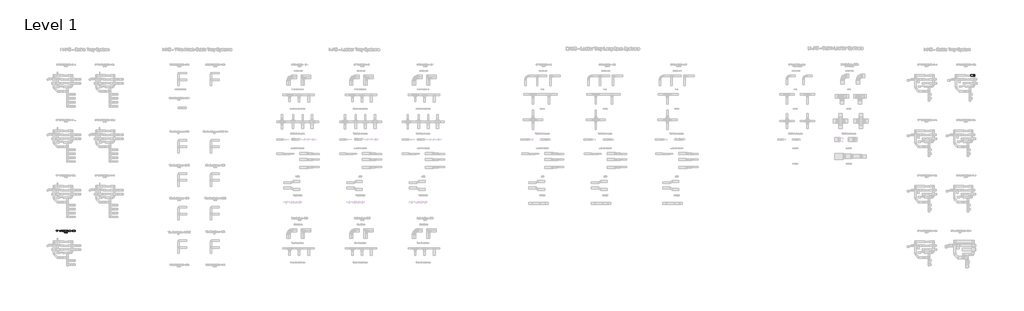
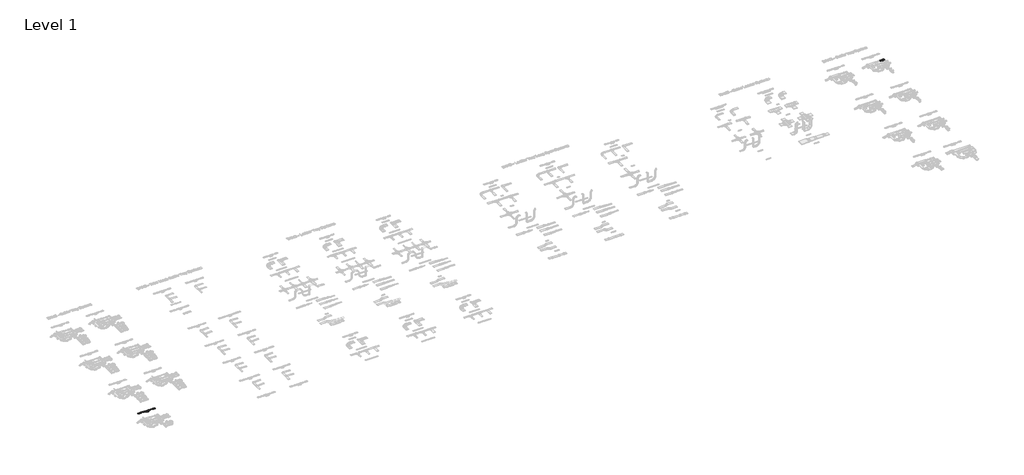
# One storey, part 26 of 106: 2 cable carrier fittings, 1 cable carrier segment, 1 proxy.
"""IFC4 building model written with IfcOpenShell, lengths in millimetres."""

from ifc_helpers import new_model, si_unit, frame, origin, origin_with_axes, place, context, project, spatial, polyline, outline, extrude, transform, mapped, element, save
from components import cable_carrier_fitting_ab346bf8, cable_carrier_fitting_42195290

model = new_model("IFC4")

# Units and contexts
model_context = context("Model", 3, world=origin())
ifc_project = project(units=[si_unit("LENGTHUNIT", "METRE", prefix="MILLI")], contexts=[model_context])

# Site, building, storey
site = spatial("IfcSite", under=ifc_project)
building = spatial("IfcBuilding", under=site)
storey = spatial("IfcBuildingStorey", under=building, Name="Level 1", Elevation=0.0)

# Proxy
placement = place(None, origin())
element("IfcBuildingElementProxy", 1, Name="250mm Arial 3", ObjectType="250mm Arial 3", at=placement, inside=storey, context=model_context, shape_type="SweptSolid", body=[
    extrude(outline(polyline([(-19340.3713614, 37392.4106539), (-19308.9787644, 37384.31725), (-19323.464118, 37347.7359841), (-19346.1961596, 37321.01089), (-19376.0559149, 37304.6631338), (-19411.9244094, 37299.2138818), (-19448.3370627, 37303.3372258), (-19477.2541204, 37315.7072579), (-19499.4190106, 37335.8947824), (-19515.5751616, 37363.4706036), (-19525.4389976, 37395.8902044), (-19528.7269429, 37430.6090677), (-19525.0098019, 37467.2286547), (-19513.8583789, 37498.8511778), (-19495.8551538, 37524.472626), (-19471.5826063, 37543.0889878), (-19442.7958402, 37554.4243517), (-19411.2499591, 37558.2028064), (-19376.8299999, 37553.3130415), (-19348.3727947, 37538.643747), (-19326.7673917, 37515.0992993), (-19312.902839, 37483.584075), (-19344.295436, 37476.1038078), (-19355.1786117, 37498.9967978), (-19370.0471756, 37514.7007605), (-19389.0850689, 37523.7828472), (-19412.4762324, 37526.8102095), (-19439.438917, 37523.4532863), (-19461.5884788, 37513.3825166), (-19478.3960874, 37497.6555613), (-19489.3329126, 37477.3300811), (-19495.3339876, 37454.3527848), (-19497.334346, 37430.6703814), (-19494.9661056, 37401.6690174), (-19487.8613846, 37376.5917281), (-19475.7519356, 37356.3965394), (-19458.3695113, 37342.0414774), (-19437.5305291, 37333.4652284), (-19415.0514064, 37330.6064787), (-19388.8474784, 37334.4998965), (-19367.0121492, 37346.1801498), (-19350.5264373, 37365.5246114), (-19340.3713614, 37392.4106539)])), origin_with_axes(), (0.0, 0.0, 1.0), 15.0),
    extrude(outline(polyline([(-19152.0157798, 37326.6824041), (-19167.0146353, 37313.8218627), (-19182.4580149, 37305.406562), (-19198.6984722, 37300.7620518), (-19216.0885606, 37299.2138818), (-19242.3231454, 37302.938687), (-19261.6752712, 37314.1131026), (-19273.6084434, 37331.0816596), (-19277.5861675, 37352.1888891), (-19276.0839827, 37365.2027147), (-19271.5774283, 37377.0209238), (-19255.7891593, 37395.0471415), (-19233.8082101, 37405.3478374), (-19206.6462561, 37410.0689897), (-19152.1997208, 37420.8601949), (-19152.0157798, 37427.8499528), (-19154.1770865, 37441.8601254), (-19160.6610067, 37451.0265185), (-19175.1616887, 37457.8323354), (-19195.3645416, 37460.100941), (-19214.0652097, 37458.591092), (-19227.1250205, 37454.0615449), (-19236.0308305, 37445.6845653), (-19242.269496, 37432.6324187), (-19273.6620929, 37436.5564933), (-19268.2128408, 37453.7243198), (-19260.0811159, 37467.2133262), (-19248.5081615, 37477.5293505), (-19232.7352209, 37485.1782303), (-19213.4444088, 37489.914711), (-19191.3178396, 37491.4935379), (-19170.095647, 37490.098652), (-19153.27271, 37485.9139943), (-19140.5884453, 37479.6216794), (-19131.7822701, 37471.9038217), (-19122.1560245, 37450.5973228), (-19120.6231829, 37423.1288005), (-19120.6231829, 37384.0719953), (-19119.0290276, 37329.5334895), (-19112.7750337, 37303.1379564), (-19144.1676306, 37303.1379564), (-19152.0157798, 37326.6824041)]), holes=[polyline([(-19152.0157798, 37389.4675979), (-19202.6608678, 37379.8413524), (-19229.6695376, 37374.7523181), (-19241.901614, 37366.4749732), (-19246.1935706, 37354.3961811), (-19243.8559871, 37345.0611754), (-19236.8432365, 37337.4122956), (-19225.3086032, 37332.3079329), (-19209.4053711, 37330.6064787), (-19192.544113, 37332.4842097), (-19177.6448922, 37338.1174028), (-19165.5661, 37346.4177403), (-19157.1661278, 37356.2969047), (-19153.4413226, 37366.4749732), (-19152.1997208, 37380.5771164), (-19152.0157798, 37389.4675979)])]), origin_with_axes(), (0.0, 0.0, 1.0), 15.0),
    extrude(outline(polyline([(-19046.0657652, 37303.1379564), (-19077.4583621, 37303.1379564), (-19077.4583621, 37554.2787318), (-19046.0657652, 37554.2787318), (-19046.0657652, 37461.1432733), (-19035.7420767, 37474.4215141), (-19024.084816, 37483.9059718), (-19011.093983, 37489.5966464), (-18996.7695779, 37491.4935379), (-18980.5980985, 37489.7844195), (-18965.3156673, 37484.6570642), (-18951.7960039, 37476.4333687), (-18940.9128283, 37465.4352299), (-18925.921637, 37435.5448178), (-18920.4953775, 37398.1128248), (-18926.1132422, 37356.2049342), (-18933.135573, 37339.2746982), (-18942.9668361, 37325.0269351), (-18954.7678007, 37313.7337243), (-18967.699236, 37305.6671451), (-18981.7611421, 37300.8271976), (-18996.9535189, 37299.2138818), (-19011.7492728, 37301.2947143), (-19024.8665652, 37307.5372119), (-19036.305396, 37317.9413746), (-19046.0657652, 37332.5072023), (-19046.0657652, 37303.1379564)]), holes=[polyline([(-19046.0657652, 37396.6412968), (-19043.9197869, 37370.4603615), (-19037.481852, 37352.7407121), (-19021.0344611, 37336.140037), (-18999.6513202, 37330.6064787), (-18981.5331319, 37334.6838375), (-18966.0514313, 37346.9159138), (-18955.4288386, 37367.2260656), (-18951.8879744, 37395.5376509), (-18955.2832187, 37424.2631033), (-18965.4689514, 37444.3433289), (-18980.4678069, 37456.161538), (-18998.3024195, 37460.100941), (-19016.4206078, 37456.0235822), (-19031.9023084, 37443.7915059), (-19042.524901, 37423.8492361), (-19046.0657652, 37396.6412968)])]), origin_with_axes(), (0.0, 0.0, 1.0), 15.0),
    extrude(outline(polyline([(-18885.178706, 37303.1379564), (-18885.178706, 37554.2787318), (-18853.7861091, 37554.2787318), (-18853.7861091, 37303.1379564), (-18885.178706, 37303.1379564)])), origin_with_axes(), (0.0, 0.0, 1.0), 15.0),
    extrude(outline(polyline([(-18677.5706334, 37358.075001), (-18646.7911731, 37354.1509264), (-18657.8812824, 37330.9590323), (-18675.5779392, 37313.6225933), (-18699.4826047, 37302.8160597), (-18729.19674, 37299.2138818), (-18748.6753253, 37300.7678), (-18766.0309248, 37305.4295547), (-18781.2635387, 37313.1991458), (-18794.3731668, 37324.0765733), (-18804.9152853, 37337.759101), (-18812.4453699, 37353.9439928), (-18816.9634206, 37372.6312485), (-18818.4694375, 37393.8208682), (-18816.9480922, 37415.7290074), (-18812.3840562, 37435.0389801), (-18804.7773295, 37451.7507861), (-18794.1279122, 37465.8644256), (-18781.0527729, 37477.0771622), (-18766.1688805, 37485.0862598), (-18749.476235, 37489.8917184), (-18730.9748363, 37491.4935379), (-18713.0693299, 37489.8955505), (-18696.8767739, 37485.1015883), (-18682.3971685, 37477.1116512), (-18669.6305136, 37465.9257393), (-18659.2091065, 37451.8427566), (-18651.7652443, 37435.1616074), (-18647.2989269, 37415.8822916), (-18645.8101545, 37394.0048092), (-18645.9940955, 37385.5435233), (-18787.0768406, 37385.5435233), (-18781.642917, 37362.0450609), (-18769.019966, 37344.7699355), (-18750.802143, 37334.1473429), (-18728.5836034, 37330.6064787), (-18711.8756294, 37332.2466193), (-18697.8041431, 37337.1670409), (-18686.3691444, 37345.6743121), (-18677.5706334, 37358.075001)]), holes=[polyline([(-18787.0768406, 37416.9361202), (-18677.2027514, 37416.9361202), (-18681.4487227, 37433.5214669), (-18689.7720529, 37445.3856612), (-18708.0741821, 37456.4221211), (-18731.0974637, 37460.100941), (-18752.2583426, 37457.1655493), (-18769.75573, 37448.359374), (-18781.9188285, 37434.632777), (-18787.0768406, 37416.9361202)])]), origin_with_axes(), (0.0, 0.0, 1.0), 15.0),
    extrude(outline(polyline([(-18449.6064237, 37303.1379564), (-18449.6064237, 37522.8861348), (-18532.0119906, 37522.8861348), (-18532.0119906, 37554.2787318), (-18335.8082599, 37554.2787318), (-18335.8082599, 37522.8861348), (-18418.2138268, 37522.8861348), (-18418.2138268, 37303.1379564), (-18449.6064237, 37303.1379564)])), origin_with_axes(), (0.0, 0.0, 1.0), 15.0),
    extrude(outline(polyline([(-18304.4156629, 37303.1379564), (-18304.4156629, 37487.5694633), (-18276.9471406, 37487.5694633), (-18276.9471406, 37460.284882), (-18266.7997289, 37476.1038078), (-18257.4493949, 37485.423485), (-18237.8290218, 37491.4935379), (-18222.194037, 37489.0716481), (-18206.3137976, 37481.8059787), (-18216.7984344, 37453.6630061), (-18238.8713541, 37460.100941), (-18248.2446808, 37458.5527709), (-18256.6216604, 37453.9082608), (-18267.9340317, 37436.7404343), (-18273.023066, 37400.0748621), (-18273.023066, 37303.1379564), (-18304.4156629, 37303.1379564)])), origin_with_axes(), (0.0, 0.0, 1.0), 15.0),
    extrude(outline(polyline([(-18068.971186, 37326.6824041), (-18083.9700415, 37313.8218627), (-18099.4134211, 37305.406562), (-18115.6538784, 37300.7620518), (-18133.0439668, 37299.2138818), (-18159.2785516, 37302.938687), (-18178.6306774, 37314.1131026), (-18190.5638496, 37331.0816596), (-18194.5415737, 37352.1888891), (-18193.0393889, 37365.2027147), (-18188.5328345, 37377.0209238), (-18172.7445655, 37395.0471415), (-18150.7636163, 37405.3478374), (-18123.6016623, 37410.0689897), (-18069.155127, 37420.8601949), (-18068.971186, 37427.8499528), (-18071.1324927, 37441.8601254), (-18077.6164129, 37451.0265185), (-18092.1170949, 37457.8323354), (-18112.3199478, 37460.100941), (-18131.0206159, 37458.591092), (-18144.0804267, 37454.0615449), (-18152.9862367, 37445.6845653), (-18159.2249022, 37432.6324187), (-18190.6174991, 37436.5564933), (-18185.168247, 37453.7243198), (-18177.0365221, 37467.2133262), (-18165.4635677, 37477.5293505), (-18149.6906271, 37485.1782303), (-18130.399815, 37489.914711), (-18108.2732458, 37491.4935379), (-18087.0510532, 37490.098652), (-18070.2281162, 37485.9139943), (-18057.5438515, 37479.6216794), (-18048.7376763, 37471.9038217), (-18039.1114307, 37450.5973228), (-18037.5785891, 37423.1288005), (-18037.5785891, 37384.0719953), (-18035.9844338, 37329.5334895), (-18029.7304399, 37303.1379564), (-18061.1230368, 37303.1379564), (-18068.971186, 37326.6824041)]), holes=[polyline([(-18068.971186, 37389.4675979), (-18119.616274, 37379.8413524), (-18146.6249438, 37374.7523181), (-18158.8570202, 37366.4749732), (-18163.1489768, 37354.3961811), (-18160.8113933, 37345.0611754), (-18153.7986427, 37337.4122956), (-18142.2640094, 37332.3079329), (-18126.3607773, 37330.6064787), (-18109.4995192, 37332.4842097), (-18094.6002984, 37338.1174028), (-18082.5215062, 37346.4177403), (-18074.121534, 37356.2969047), (-18070.3967288, 37366.4749732), (-18069.155127, 37380.5771164), (-18068.971186, 37389.4675979)])]), origin_with_axes(), (0.0, 0.0, 1.0), 15.0),
    extrude(outline(polyline([(-17994.4137683, 37232.5046133), (-17998.3378429, 37262.7322506), (-17982.3962898, 37259.9731356), (-17967.497069, 37263.4373577), (-17958.3613328, 37273.0942601), (-17949.7774196, 37296.2095122), (-17947.3248729, 37303.8124067), (-18014.0341414, 37487.5694633), (-17980.9247618, 37487.5694633), (-17945.5467766, 37385.1756413), (-17933.2227298, 37344.2181125), (-17920.898683, 37380.3931754), (-17884.5396791, 37487.5694633), (-17851.6755542, 37487.5694633), (-17915.8709624, 37298.7233725), (-17932.5482795, 37257.7658437), (-17941.0862074, 37244.6907044), (-17950.7584382, 37235.6316103), (-17961.9941675, 37230.3433066), (-17975.2225909, 37228.5805387), (-17994.4137683, 37232.5046133)])), origin_with_axes(), (0.0, 0.0, 1.0), 15.0),
    extrude(outline(polyline([(-17735.4248437, 37389.4675979), (-17704.0322468, 37389.4675979), (-17700.4300689, 37372.0468526), (-17693.9154919, 37358.0443442), (-17683.7527518, 37346.9312422), (-17669.2060846, 37338.1787164), (-17651.4251215, 37332.4995381), (-17631.5594938, 37330.6064787), (-17614.0697706, 37332.0396856), (-17598.7566825, 37336.3393065), (-17586.3483294, 37343.1451234), (-17577.572811, 37352.0969186), (-17572.3534852, 37362.3746218), (-17570.6137099, 37373.1581628), (-17575.8253715, 37392.7478791), (-17583.7654912, 37400.4963936), (-17597.1625272, 37407.0033064), (-17642.8718651, 37418.990128), (-17692.076082, 37434.4718287), (-17707.7034025, 37445.0331076), (-17718.7781834, 37457.8323354), (-17725.3770667, 37472.5936004), (-17727.5766945, 37489.0409913), (-17724.8559006, 37507.4274268), (-17716.6935188, 37524.5722607), (-17703.304147, 37539.1035995), (-17684.9023831, 37549.64955), (-17662.8141349, 37556.0644923), (-17638.3653107, 37558.2028064), (-17611.877807, 37555.9648576), (-17588.7012413, 37549.2510112), (-17569.6633481, 37538.1992229), (-17555.5918618, 37522.9474485), (-17546.6860518, 37504.4460498), (-17543.1451876, 37483.6453887), (-17574.5377845, 37483.6453887), (-17580.3012691, 37502.3767136), (-17592.3187476, 37515.8963769), (-17611.0960578, 37524.0817513), (-17637.1390373, 37526.8102095), (-17663.7951536, 37524.1124082), (-17682.0819544, 37516.0190043), (-17692.6585618, 37504.1088247), (-17696.1840976, 37489.9606963), (-17693.6855657, 37477.8972325), (-17686.18997, 37468.1943449), (-17668.4703206, 37459.5184612), (-17634.9317454, 37450.6586365), (-17579.3815641, 37434.9010243), (-17561.4856379, 37423.5120109), (-17549.0006427, 37409.455853), (-17541.6659954, 37392.8858348), (-17539.221113, 37373.9552405), (-17542.0338774, 37354.6031147), (-17550.4721707, 37336.4006201), (-17564.1911034, 37320.7349785), (-17582.8457862, 37308.9934115), (-17605.2789237, 37301.6587642), (-17630.3332204, 37299.2138818), (-17661.0896881, 37301.8503694), (-17686.4045679, 37309.7598323), (-17706.5690997, 37322.9729273), (-17721.8745236, 37341.5203112), (-17731.7000385, 37364.1143971), (-17735.4248437, 37389.4675979)])), origin_with_axes(), (0.0, 0.0, 1.0), 15.0),
    extrude(outline(polyline([(-17496.0562922, 37232.5046133), (-17499.9803668, 37262.7322506), (-17484.0388137, 37259.9731356), (-17469.1395929, 37263.4373577), (-17460.0038567, 37273.0942601), (-17451.4199435, 37296.2095122), (-17448.9673968, 37303.8124067), (-17515.6766653, 37487.5694633), (-17482.5672857, 37487.5694633), (-17447.1893005, 37385.1756413), (-17434.8652537, 37344.2181125), (-17422.5412068, 37380.3931754), (-17386.182203, 37487.5694633), (-17353.3180781, 37487.5694633), (-17417.5134862, 37298.7233725), (-17434.1908033, 37257.7658437), (-17442.7287313, 37244.6907044), (-17452.4009621, 37235.6316103), (-17463.6366914, 37230.3433066), (-17476.8651148, 37228.5805387), (-17496.0562922, 37232.5046133)])), origin_with_axes(), (0.0, 0.0, 1.0), 15.0),
    extrude(outline(polyline([(-17339.0933076, 37358.075001), (-17307.7007107, 37361.9990756), (-17302.7496322, 37348.5713828), (-17293.1693719, 37338.6998826), (-17278.8986161, 37332.6298297), (-17259.8760513, 37330.6064787), (-17241.0834127, 37332.4612171), (-17227.8703177, 37338.0254323), (-17220.0528253, 37346.0881793), (-17217.4469945, 37355.4385134), (-17220.0681537, 37363.4399468), (-17227.9316314, 37369.5406565), (-17260.2439333, 37378.4924517), (-17307.5167697, 37393.851525), (-17319.4805987, 37401.5693827), (-17328.1488182, 37411.7857723), (-17333.4141293, 37423.8492361), (-17335.169233, 37437.1083163), (-17329.5283757, 37460.4994798), (-17314.1386456, 37478.3724134), (-17294.1810473, 37487.6614338), (-17267.1723775, 37491.4935379), (-17246.7395984, 37489.9530321), (-17228.9739637, 37485.3315145), (-17214.6878796, 37478.0811735), (-17204.693752, 37468.6541974), (-17198.0718761, 37456.3531432), (-17193.9025468, 37440.4805679), (-17225.2951437, 37436.5564933), (-17229.2575394, 37446.4356577), (-17237.0980244, 37453.8776039), (-17248.8932409, 37458.5451067), (-17264.7198309, 37460.100941), (-17282.7460487, 37458.6140846), (-17294.7635272, 37454.1535154), (-17301.5233588, 37447.7155805), (-17303.7766361, 37440.2966269), (-17300.0365024, 37431.1608907), (-17288.3255923, 37424.2324465), (-17261.2862656, 37417.5492569), (-17215.2090457, 37402.7726634), (-17203.038283, 37395.7062634), (-17193.8105763, 37386.0340326), (-17187.9934423, 37373.7253142), (-17186.0543976, 37358.7494513), (-17188.3306674, 37343.2677507), (-17195.159477, 37328.7057551), (-17206.2802431, 37316.2054314), (-17221.4323828, 37306.9087468), (-17239.7345121, 37301.137598), (-17260.305247, 37299.2138818), (-17291.958427, 37302.9233586), (-17315.0583506, 37314.0517889), (-17330.4787375, 37332.4765455), (-17339.0933076, 37358.075001)])), origin_with_axes(), (0.0, 0.0, 1.0), 15.0),
    extrude(outline(polyline([(-17084.0284576, 37329.3188917), (-17080.104383, 37302.2182514), (-17103.587517, 37299.2138818), (-17118.6553504, 37300.5167972), (-17129.8910797, 37304.4255434), (-17143.0122042, 37318.0984909), (-17146.8136514, 37353.7217307), (-17146.8136514, 37456.1768664), (-17170.3580991, 37456.1768664), (-17170.3580991, 37487.5694633), (-17146.8136514, 37487.5694633), (-17146.8136514, 37532.3897531), (-17115.4210545, 37550.8451665), (-17115.4210545, 37487.5694633), (-17084.0284576, 37487.5694633), (-17084.0284576, 37456.1768664), (-17115.4210545, 37456.1768664), (-17115.4210545, 37354.6414357), (-17113.7655855, 37338.4546279), (-17108.4006398, 37332.7218002), (-17097.7014051, 37330.6064787), (-17084.0284576, 37329.3188917)])), origin_with_axes(), (0.0, 0.0, 1.0), 15.0),
    extrude(outline(polyline([(-16923.5092804, 37358.075001), (-16892.7298201, 37354.1509264), (-16903.8199294, 37330.9590323), (-16921.5165862, 37313.6225933), (-16945.4212517, 37302.8160597), (-16975.135387, 37299.2138818), (-16994.6139723, 37300.7678), (-17011.9695718, 37305.4295547), (-17027.2021857, 37313.1991458), (-17040.3118138, 37324.0765733), (-17050.8539323, 37337.759101), (-17058.3840169, 37353.9439928), (-17062.9020676, 37372.6312485), (-17064.4080845, 37393.8208682), (-17062.8867392, 37415.7290074), (-17058.3227032, 37435.0389801), (-17050.7159765, 37451.7507861), (-17040.0665592, 37465.8644256), (-17026.9914199, 37477.0771622), (-17012.1075275, 37485.0862598), (-16995.414882, 37489.8917184), (-16976.9134833, 37491.4935379), (-16959.0079769, 37489.8955505), (-16942.8154209, 37485.1015883), (-16928.3358155, 37477.1116512), (-16915.5691606, 37465.9257393), (-16905.1477535, 37451.8427566), (-16897.7038913, 37435.1616074), (-16893.2375739, 37415.8822916), (-16891.7488015, 37394.0048092), (-16891.9327425, 37385.5435233), (-17033.0154876, 37385.5435233), (-17027.581564, 37362.0450609), (-17014.958613, 37344.7699355), (-16996.74079, 37334.1473429), (-16974.5222504, 37330.6064787), (-16957.8142764, 37332.2466193), (-16943.7427901, 37337.1670409), (-16932.3077914, 37345.6743121), (-16923.5092804, 37358.075001)]), holes=[polyline([(-17033.0154876, 37416.9361202), (-16923.1413984, 37416.9361202), (-16927.3873697, 37433.5214669), (-16935.7106999, 37445.3856612), (-16954.0128291, 37456.4221211), (-16977.0361107, 37460.100941), (-16998.1969896, 37457.1655493), (-17015.694377, 37448.359374), (-17027.8574755, 37434.632777), (-17033.0154876, 37416.9361202)])]), origin_with_axes(), (0.0, 0.0, 1.0), 15.0),
    extrude(outline(polyline([(-16860.3562045, 37303.1379564), (-16860.3562045, 37487.5694633), (-16828.9636076, 37487.5694633), (-16828.9636076, 37457.2191987), (-16819.5213031, 37471.1603935), (-16807.3811972, 37482.0818902), (-16792.9571573, 37489.140626), (-16776.6630506, 37491.4935379), (-16759.2039843, 37489.0946407), (-16745.20914, 37481.8979492), (-16734.75516, 37470.3786442), (-16727.9186863, 37455.0119067), (-16716.4760234, 37470.9726204), (-16703.4238768, 37482.3731301), (-16688.7622464, 37489.213436), (-16672.4911323, 37491.4935379), (-16648.8930352, 37487.6997549), (-16631.441633, 37476.3184056), (-16620.6580921, 37457.0429219), (-16617.0635784, 37429.5667354), (-16617.0635784, 37303.1379564), (-16648.4561753, 37303.1379564), (-16648.4561753, 37416.0777289), (-16651.3685744, 37442.2893211), (-16661.914525, 37455.1958477), (-16679.8487722, 37460.100941), (-16696.8556503, 37456.9586156), (-16710.720203, 37447.5316395), (-16719.9402455, 37431.1762191), (-16723.013593, 37407.248561), (-16723.013593, 37303.1379564), (-16754.4061899, 37303.1379564), (-16754.4061899, 37419.5726079), (-16756.2226073, 37437.3229141), (-16761.6718593, 37449.9841861), (-16771.2597838, 37457.5717523), (-16785.4922185, 37460.100941), (-16797.5863391, 37458.4148152), (-16808.7300979, 37453.3564378), (-16817.9271478, 37445.048436), (-16824.1811417, 37433.6134374), (-16828.9636076, 37396.1507875), (-16828.9636076, 37303.1379564), (-16860.3562045, 37303.1379564)])), origin_with_axes(), (0.0, 0.0, 1.0), 15.0),
    extrude(outline(polyline([(-16487.5691161, 37377.6953741), (-16487.5691161, 37409.087971), (-16389.4672507, 37409.087971), (-16389.4672507, 37377.6953741), (-16487.5691161, 37377.6953741)])), origin_with_axes(), (0.0, 0.0, 1.0), 15.0),
    extrude(outline(polyline([(-16252.1246392, 37303.1379564), (-16252.1246392, 37554.2787318), (-16220.7320423, 37554.2787318), (-16220.7320423, 37431.3448317), (-16091.9733439, 37554.2787318), (-16048.0727592, 37554.2787318), (-16156.1687521, 37451.0265185), (-16044.1486846, 37303.1379564), (-16082.5310394, 37303.1379564), (-16178.4256128, 37429.8119901), (-16220.7320423, 37389.4675979), (-16220.7320423, 37303.1379564), (-16252.1246392, 37303.1379564)])), origin_with_axes(), (0.0, 0.0, 1.0), 15.0),
    extrude(outline(polyline([(-15902.8819984, 37401.2398218), (-15902.8819984, 37432.6324187), (-15800.8560584, 37432.6324187), (-15800.8560584, 37338.7611963), (-15825.6497721, 37321.5167277), (-15851.2252349, 37309.1466957), (-15877.5211334, 37301.6970852), (-15904.4761537, 37299.2138818), (-15939.6931906, 37303.160949), (-15971.5226474, 37315.0021507), (-15997.9641658, 37334.3236197), (-16017.0173874, 37360.7114886), (-16028.5366924, 37392.3646686), (-16032.3764607, 37427.4820708), (-16028.5520208, 37462.8523918), (-16017.0787011, 37495.7548377), (-15998.4316825, 37523.3536516), (-15973.0861458, 37542.8130763), (-15942.2147151, 37554.3553739), (-15906.990014, 37558.2028064), (-15881.1309755, 37555.9725218), (-15857.8777677, 37549.281668), (-15838.2957156, 37538.6130901), (-15823.4501443, 37524.4496333), (-15812.4673339, 37506.109183), (-15804.4735647, 37482.9096247), (-15833.413615, 37474.7549071), (-15847.730356, 37503.7869279), (-15858.1230223, 37513.1985756), (-15872.1945087, 37520.5255587), (-15888.9714605, 37525.2390468), (-15907.4805234, 37526.8102095), (-15929.14724, 37525.1164194), (-15947.6716313, 37520.0350494), (-15962.9847194, 37512.2022286), (-15975.0175263, 37502.2540863), (-15991.1736773, 37478.0658451), (-15998.5313172, 37454.3681132), (-16000.9838638, 37428.7696577), (-15998.0331436, 37398.7489541), (-15989.1809831, 37374.047211), (-15974.6956296, 37354.8407051), (-15954.8453302, 37341.3057134), (-15931.6151151, 37333.2812874), (-15906.990014, 37330.6064787), (-15885.2466553, 37332.6221655), (-15864.0397911, 37338.6692258), (-15832.2486553, 37355.867709), (-15832.2486553, 37401.2398218), (-15902.8819984, 37401.2398218)])), origin_with_axes(), (0.0, 0.0, 1.0), 15.0),
    extrude(outline(polyline([(-15765.5393869, 37373.6486721), (-15734.14679, 37377.6953741), (-15730.8818373, 37354.871362), (-15723.4168984, 37340.6006062), (-15712.0125566, 37333.1050106), (-15696.9293948, 37330.6064787), (-15685.3334477, 37332.0243572), (-15675.4389549, 37336.2779928), (-15667.8054035, 37342.9765108), (-15662.9922807, 37351.7290366), (-15659.5893723, 37382.845722), (-15659.5893723, 37554.2787318), (-15628.1967754, 37554.2787318), (-15628.1967754, 37383.397545), (-15630.0898348, 37355.4461776), (-15635.7690131, 37334.6225238), (-15645.5638712, 37319.4090705), (-15659.8039701, 37308.2883043), (-15677.6845679, 37301.4824874), (-15698.4009228, 37299.2138818), (-15727.4176151, 37303.896713), (-15748.7394424, 37317.9452067), (-15761.6766259, 37341.2367355), (-15765.5393869, 37373.6486721)])), origin_with_axes(), (0.0, 0.0, 1.0), 15.0),
    extrude(outline(polyline([(-17862.9572687, 36998.2009118), (-17862.9572687, 37249.3416872), (-17831.5646718, 37249.3416872), (-17831.5646718, 37147.3157472), (-17698.1461349, 37147.3157472), (-17698.1461349, 37249.3416872), (-17666.753538, 37249.3416872), (-17666.753538, 36998.2009118), (-17698.1461349, 36998.2009118), (-17698.1461349, 37115.9231502), (-17831.5646718, 37115.9231502), (-17831.5646718, 36998.2009118), (-17862.9572687, 36998.2009118)])), origin_with_axes(), (0.0, 0.0, 1.0), 15.0),
    extrude(outline(polyline([(-17521.5627772, 36998.2009118), (-17521.5627772, 37057.062031), (-17635.360941, 37057.062031), (-17635.360941, 37088.4546279), (-17513.714628, 37245.4176125), (-17490.1701803, 37245.4176125), (-17490.1701803, 37088.4546279), (-17458.7775834, 37088.4546279), (-17458.7775834, 37057.062031), (-17490.1701803, 37057.062031), (-17490.1701803, 36998.2009118), (-17521.5627772, 36998.2009118)]), holes=[polyline([(-17521.5627772, 37088.4546279), (-17521.5627772, 37185.4528473), (-17596.7333315, 37088.4546279), (-17521.5627772, 37088.4546279)])]), origin_with_axes(), (0.0, 0.0, 1.0), 15.0),
    extrude(outline(polyline([(-17270.4220018, 37029.5935087), (-17270.4220018, 36998.2009118), (-17435.2331357, 36998.2009118), (-17431.860884, 37019.8446358), (-17424.1200337, 37036.7595434), (-17412.792334, 37053.1686132), (-17373.4902741, 37089.5582739), (-17339.6144738, 37119.6479554), (-17319.2889935, 37141.8588309), (-17309.1262534, 37159.8850487), (-17305.7386734, 37177.4207571), (-17308.9346482, 37193.1400482), (-17318.5225727, 37206.2075232), (-17333.2608451, 37215.0136985), (-17351.9078638, 37217.9490902), (-17371.4899158, 37215.0826764), (-17386.7033691, 37206.4834347), (-17396.5212199, 37192.8258156), (-17399.9164641, 37174.7842695), (-17431.309061, 37178.7083441), (-17423.6985023, 37209.0739371), (-17407.2434472, 37231.2541557), (-17382.8022871, 37244.8198043), (-17351.2334134, 37249.3416872), (-17319.4346135, 37244.3139666), (-17295.0394387, 37229.2308048), (-17279.519417, 37206.6980325), (-17274.3460764, 37179.3214807), (-17279.92562, 37149.553696), (-17298.473004, 37118.7742357), (-17343.4465779, 37075.7626991), (-17379.5603271, 37045.5657187), (-17393.7237839, 37029.5935087), (-17270.4220018, 37029.5935087)])), origin_with_axes(), (0.0, 0.0, 1.0), 15.0),
])

# Cable carrier fittings
cable_carrier_fitting_shape = cable_carrier_fitting_ab346bf8(model_context)
element("IfcCableCarrierFitting", 2, ObjectType="BAKS_Reducer : RK(S/L/P)J_H100", at=placement, inside=storey, context=model_context, shape_type="MappedRepresentation", body=[
    mapped(cable_carrier_fitting_shape, transform((168256.8329462, 69380.8714214, 0.0), x_axis=(1.0, 0.0, 0.0), y_axis=(0.0, 1.0, 0.0), z_axis=(0.0, 0.0, 1.0))),
])
cable_carrier_fitting_2_shape = cable_carrier_fitting_42195290(model_context)
element("IfcCableCarrierFitting", 3, ObjectType="BAKS_Horizontal bend : KKJ/KKMJ_H100", at=placement, inside=storey, context=model_context, shape_type="MappedRepresentation", body=[
    mapped(cable_carrier_fitting_2_shape, transform((169056.8329462, 69380.8714214, 0.0), x_axis=(0.0, 1.0, 0.0), y_axis=(-1.0, 0.0, 0.0), z_axis=(0.0, 0.0, 1.0))),
])

# Cable carrier segment
element("IfcCableCarrierSegment", 4, ObjectType="BAKS - Cable tray H100 (KGL)", at=placement, inside=storey, context=model_context, shape_type="SweptSolid", body=[
    extrude(outline(polyline([(168351.8329462, 69230.8714214), (168351.8329462, 69530.8714214), (168860.8329462, 69530.8714214), (168860.8329462, 69230.8714214), (168351.8329462, 69230.8714214)])), frame((0.0, 0.0, -50.0), z_axis=(0.0, 0.0, 1.0), x_axis=(1.0, 0.0, 0.0)), (0.0, 0.0, 1.0), 100.0),
])

save(model, "model.ifc")
